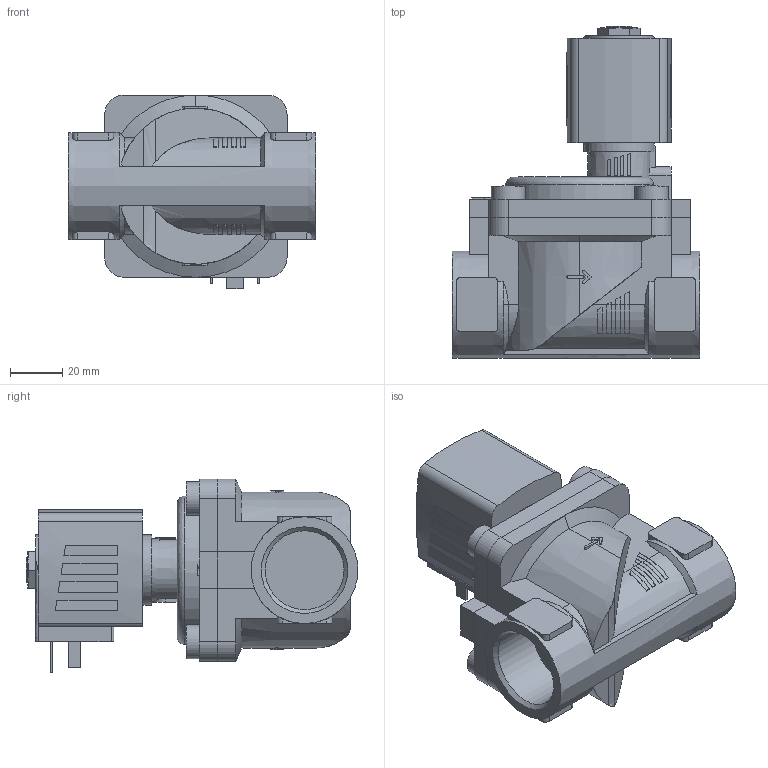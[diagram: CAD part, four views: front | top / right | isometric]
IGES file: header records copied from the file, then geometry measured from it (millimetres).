
Start section: Data from Parasolid IGES Translator 26.0.171, Copyright(c) 2006 Siemens PLM Software. All Rights Reserved.
Global section: file name: 6281-302794-2_2-Way_Solenoid_Valve__Servo-assisted__General_Purpose.igs; native system: By Siemens PLM Incorporated; preprocessor: XPlus GENERIC/IGES 26.0.171; author: Noname; organization: Noname; date: 20240827.141751; units: millimetre
Bounding box: 95 x 127.5 x 74.5 mm (x, y, z)
Surface area: 56171.8 mm2 (no closed solid volume)
Topology: 0 solids, 0 shells, 361 faces, 1884 edges, 1865 vertices
Faces by surface type: extrusion 240, revolution 121
